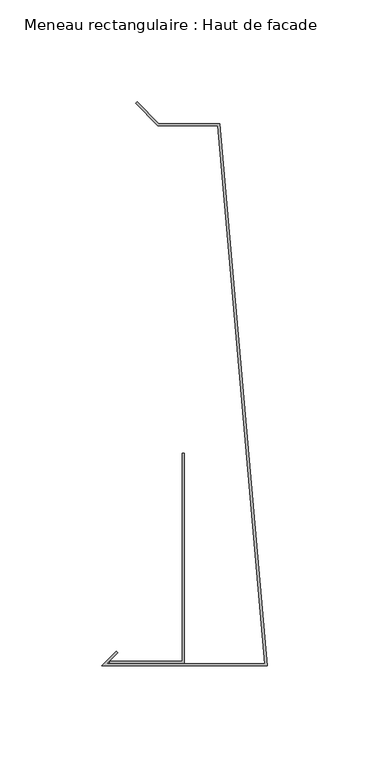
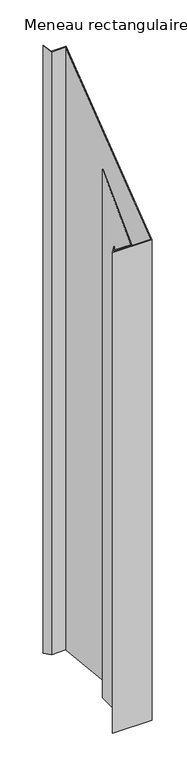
"""IFC4 building model written with IfcOpenShell, lengths in millimetres: member geometry, Meneau rectangulaire : Haut de facade."""

from ifc_helpers import new_model, si_unit, origin, place, context, project, spatial, faceted_brep, source, transform, mapped, element, save


def meneau_rectangulaire_haut_de_facade_bf85a0af(model_context):
    return source(origin(), model_context, "Body", "Brep", [
        faceted_brep([(-24.0647895, 160.703755, -1146.6666667), (-53.5626719, 160.703755, -1146.6666667), (-64.4621669, 171.6032499, -1146.6666667), (-63.7550601, 172.3103567, -1146.6666667), (-53.1484584, 161.703755, -1146.6666667), (-23.1484584, 161.703755, -1146.6666667), (0.0, -104.2, -1146.6666667), (-81.0, -104.2, -1146.6666667), (-73.9289322, -97.1289322, -1146.6666667), (-73.2218254, -97.836039, -1146.6666667), (-78.5857864, -103.2, -1146.6666667), (-1.0913085, -103.2, -1146.6666667), (-1.0913085, -103.2, -103.2), (-24.0647895, 160.703755, 160.703755), (-78.5857864, -103.2, -103.2), (-73.2218254, -97.836039, -97.836039), (-73.9289322, -97.1289322, -97.1289322), (-81.0, -104.2, -104.2), (0.0, -104.2, -104.2), (-23.1484584, 161.703755, 161.703755), (-53.1484584, 161.703755, 161.703755), (-63.7550601, 172.3103567, 172.3103567), (-64.4621669, 171.6032499, 171.6032499), (-53.5626719, 160.703755, 160.703755)], [[[0, 1, 2, 3, 4, 5, 6, 7, 8, 9, 10, 11]], [[12, 13, 0, 11]], [[14, 12, 11, 10]], [[15, 14, 10, 9]], [[16, 15, 9, 8]], [[17, 16, 8, 7]], [[18, 17, 7, 6]], [[19, 18, 6, 5]], [[20, 19, 5, 4]], [[21, 20, 4, 3]], [[22, 21, 3, 2]], [[23, 22, 2, 1]], [[13, 23, 1, 0]], [[13, 12, 14, 15, 16, 17, 18, 19, 20, 21, 22, 23]]]),
        faceted_brep([(-40.5477541, -102.9846816, -1146.6666667), (-77.0752814, -102.9846816, -1146.6666667), (-77.0752814, -101.9846816, -1146.6666667), (-41.5477541, -101.9846816, -1146.6666667), (-41.5477541, -0.0384227, -1146.6666667), (-40.5477541, -0.0384227, -1146.6666667), (-40.5477541, -0.0384227, -0.0384227), (-40.5477541, -102.9846816, -102.9846816), (-41.5477541, -0.0384227, -0.0384227), (-41.5477541, -101.9846816, -101.9846816), (-77.0752814, -101.9846816, -101.9846816), (-77.0752814, -102.9846816, -102.9846816)], [[[0, 1, 2, 3, 4, 5]], [[6, 7, 0, 5]], [[8, 6, 5, 4]], [[9, 8, 4, 3]], [[10, 9, 3, 2]], [[11, 10, 2, 1]], [[7, 11, 1, 0]], [[7, 6, 8, 9, 10, 11]]]),
    ])


if __name__ == "__main__":
    model = new_model("IFC4")
    model_context = context("Model", 3, world=origin())
    ifc_project = project(units=[si_unit("LENGTHUNIT", "METRE", prefix="MILLI")], contexts=[model_context])
    site = spatial("IfcSite", under=ifc_project)
    building = spatial("IfcBuilding", under=site)
    placement = place(None, origin())
    meneau_rectangulaire_haut_de_facade_shape = meneau_rectangulaire_haut_de_facade_bf85a0af(model_context)
    element("IfcMember", 1, ObjectType="Meneau rectangulaire : Haut de facade", at=placement, inside=building, context=model_context, shape_type="MappedRepresentation", body=[
        mapped(meneau_rectangulaire_haut_de_facade_shape, transform((0.0, 0.0, 0.0), x_axis=(1.0, 0.0, 0.0), y_axis=(0.0, 1.0, 0.0), z_axis=(0.0, 0.0, 1.0))),
    ])
    save(model, "model.ifc")
